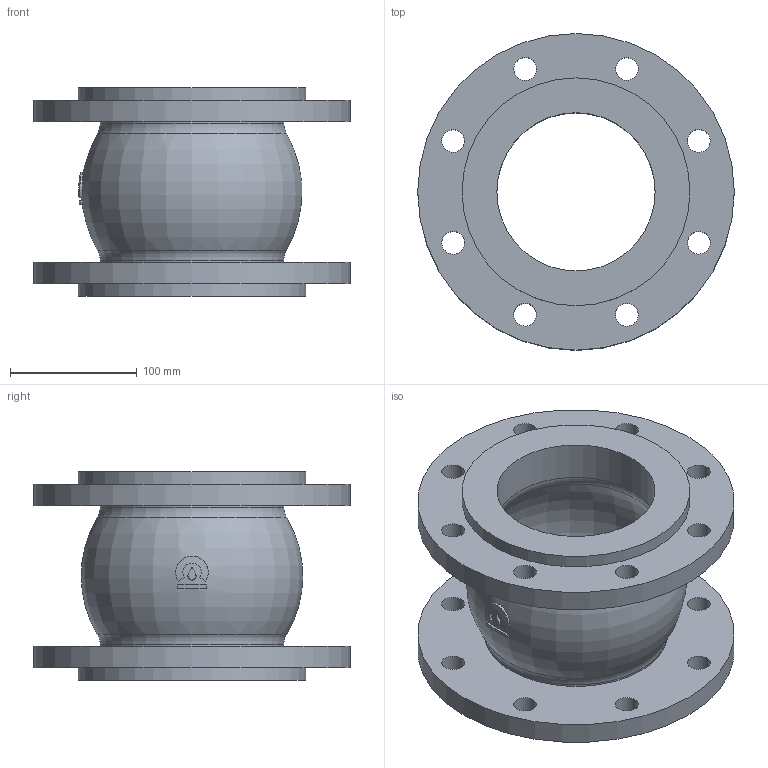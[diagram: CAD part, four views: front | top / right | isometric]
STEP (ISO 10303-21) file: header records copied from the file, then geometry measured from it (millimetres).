
FILE_DESCRIPTION(('STEP AP203'), '1');
FILE_NAME('Êîìïåíñàòîð KMS DN125 PN10_16', '', ('UNSPECIFIED'), ('UNSPECIFIED'), 'ASCON STEP Converter 1.6', 'ASCON Math Kernel', '');
FILE_SCHEMA(('CONFIG_CONTROL_DESIGN'));
Length unit declared in the file: millimetre
Bounding box: 250 x 250 x 165 mm (x, y, z)
Volume: 2007350.9 mm3; surface area: 317334 mm2
Topology: 1 solids, 1 shells, 53 faces, 124 edges, 80 vertices
Faces by surface type: cylinder 31, plane 13, torus 9
Full cylindrical faces by diameter (mm): 18 x16, 125 x2, 145 x2, 180 x2, 250 x2
Entity records: 2481 total; most frequent: CARTESIAN_POINT 844, DIRECTION 238, ORIENTED_EDGE 188, EDGE_LOOP 124, AXIS2_PLACEMENT_3D 112, EDGE_CURVE 94, VERTEX_POINT 80, FACE_BOUND 64
